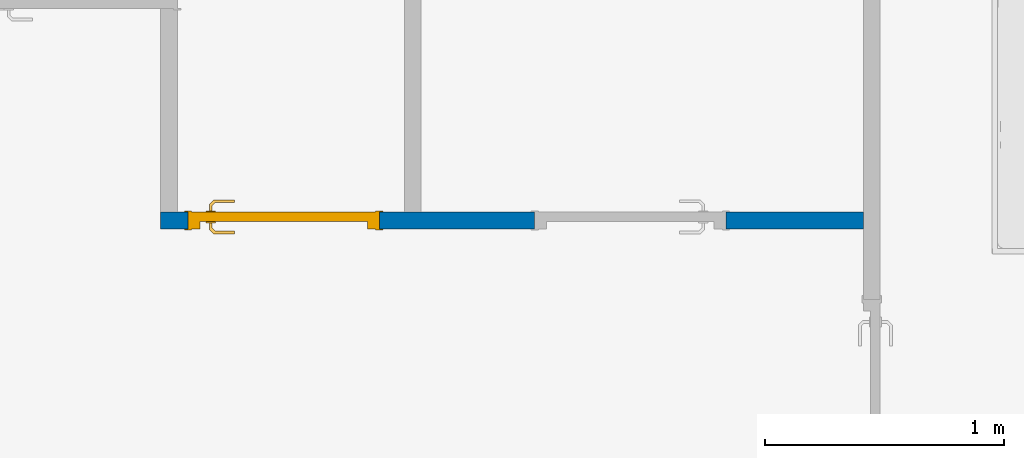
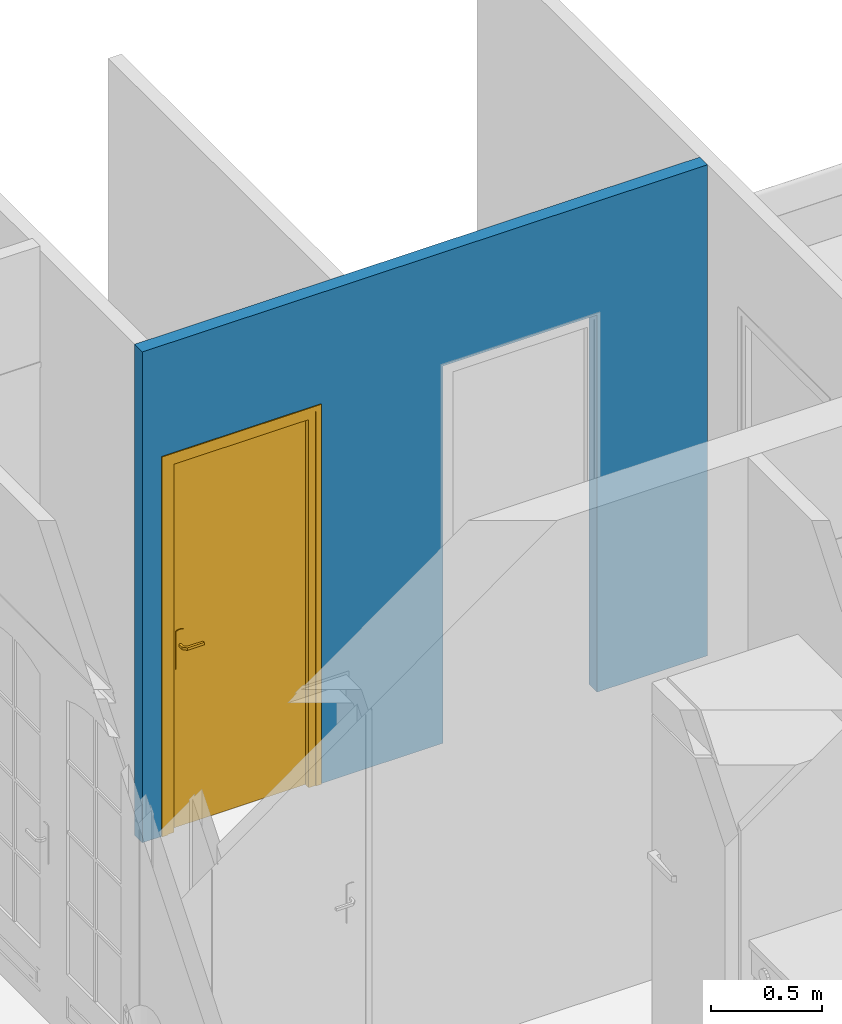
# One storey, part 3 of 15: 1 door, 1 wall, 2 openings.
"""IFC2X3 building model written with IfcOpenShell, lengths in metres."""

from ifc_helpers import new_model, entity, si_unit, converted_unit, derived_unit, direction, frame, frame_2d, origin, place, context, subcontext, project, spatial, polyline, rectangle, extrude, clip, bounded_halfspace, faceted_brep, source, transform, mapped, material, material_list, layer, layer_set, layer_usage, type_object, type_shapes, element, fill, save


model = new_model("IFC2X3")

# Units and contexts
model_context = context("Model", 3, precision=1e-05, world=origin(), true_north=direction((6.12303176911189e-17, 1.0)))
body_context = subcontext(model_context, "Body", "Model", "MODEL_VIEW")
ifc_project = project(units=[si_unit("LENGTHUNIT", "METRE"), si_unit("AREAUNIT", "SQUARE_METRE"), si_unit("VOLUMEUNIT", "CUBIC_METRE"), converted_unit("PLANEANGLEUNIT", "DEGREE", entity("IfcRatioMeasure", 0.0174532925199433), si_unit("PLANEANGLEUNIT", "RADIAN"), dimensions=[0, 0, 0, 0, 0, 0, 0]), si_unit("MASSUNIT", "GRAM", prefix="KILO"), derived_unit("MASSDENSITYUNIT", [(si_unit("MASSUNIT", "GRAM", prefix="KILO"), 1), (si_unit("LENGTHUNIT", "METRE"), -3)]), derived_unit("MOMENTOFINERTIAUNIT", [(si_unit("LENGTHUNIT", "METRE"), 4)]), si_unit("TIMEUNIT", "SECOND"), si_unit("FREQUENCYUNIT", "HERTZ"), si_unit("THERMODYNAMICTEMPERATUREUNIT", "DEGREE_CELSIUS"), derived_unit("THERMALTRANSMITTANCEUNIT", [(si_unit("MASSUNIT", "GRAM", prefix="KILO"), 1), (si_unit("THERMODYNAMICTEMPERATUREUNIT", "KELVIN"), -1), (si_unit("TIMEUNIT", "SECOND"), -3)]), derived_unit("VOLUMETRICFLOWRATEUNIT", [(si_unit("LENGTHUNIT", "METRE"), 3), (si_unit("TIMEUNIT", "SECOND"), -1)]), si_unit("ELECTRICCURRENTUNIT", "AMPERE"), si_unit("ELECTRICVOLTAGEUNIT", "VOLT"), si_unit("POWERUNIT", "WATT"), si_unit("FORCEUNIT", "NEWTON", prefix="KILO"), si_unit("ILLUMINANCEUNIT", "LUX"), si_unit("LUMINOUSFLUXUNIT", "LUMEN"), si_unit("LUMINOUSINTENSITYUNIT", "CANDELA"), derived_unit("USERDEFINED", [(si_unit("MASSUNIT", "GRAM", prefix="KILO"), -1), (si_unit("LENGTHUNIT", "METRE"), -2), (si_unit("TIMEUNIT", "SECOND"), 3), (si_unit("LUMINOUSFLUXUNIT", "LUMEN"), 1)]), derived_unit("LINEARVELOCITYUNIT", [(si_unit("LENGTHUNIT", "METRE"), 1), (si_unit("TIMEUNIT", "SECOND"), -1)]), si_unit("PRESSUREUNIT", "PASCAL"), derived_unit("USERDEFINED", [(si_unit("LENGTHUNIT", "METRE"), -2), (si_unit("MASSUNIT", "GRAM", prefix="KILO"), 1), (si_unit("TIMEUNIT", "SECOND"), -2)]), derived_unit("LINEARFORCEUNIT", [(si_unit("MASSUNIT", "GRAM", prefix="KILO"), 1), (si_unit("LENGTHUNIT", "METRE"), 1), (si_unit("TIMEUNIT", "SECOND"), -2), (si_unit("LENGTHUNIT", "METRE"), -1)]), derived_unit("PLANARFORCEUNIT", [(si_unit("MASSUNIT", "GRAM", prefix="KILO"), 1), (si_unit("LENGTHUNIT", "METRE"), 1), (si_unit("TIMEUNIT", "SECOND"), -2), (si_unit("LENGTHUNIT", "METRE"), -2)])], contexts=[model_context])

# Site, building, storey
site_placement = place(None, origin())
site = spatial("IfcSite", under=ifc_project, at=site_placement, Name="Surface", CompositionType="ELEMENT")
building_placement = place(site_placement, origin())
building = spatial("IfcBuilding", under=site, at=building_placement, CompositionType="ELEMENT")
storey_placement = place(building_placement, frame((0.0, 0.0, 2.65)))
storey = spatial("IfcBuildingStorey", under=building, at=storey_placement, Name="Niveau étage", CompositionType="ELEMENT", Elevation=2.65)

# Wall, openings, door
ifc_material_1 = material(Name="Mur par défaut")
ifc_layer = layer(ifc_material_1, 0.07)
ifc_layer_set = layer_set([ifc_layer], Name="Mur de base:Int. Plâtre 7cm")
ifc_layer_usage = layer_usage(ifc_layer_set, "AXIS2", "NEGATIVE", 0.035)
wall_type = type_object("IfcWallType", Name="Mur de base:Int. Plâtre 7cm", PredefinedType="STANDARD", material=ifc_layer_set)
wall_placement = place(storey_placement, frame((9.89939607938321, 4.96925810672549, 0.0), z_axis=(0.0, 0.0, 1.0), x_axis=(-1.0, 0.0, 0.0)))
wall = element("IfcWallStandardCase", 1, at=wall_placement, inside=storey, type_object=wall_type, material=ifc_layer_usage, Name="Mur de base:Int. Plâtre 7cm", ObjectType="Mur de base:Int. Plâtre 7cm", context=body_context, shape_type="Clipping", body=[
    clip(extrude(rectangle(XDim=2.94, YDim=0.0699999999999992, at=frame_2d((1.47, 1.90819582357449e-16), x_axis=(-1.0, 0.0))), origin(), (0.0, 0.0, 1.0), 2.7), bounded_halfspace(frame((0.0, -0.0350000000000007, 2.7), z_axis=(0.0, 0.0, -1.0), x_axis=(1.0, 0.0, 0.0)), True, frame((0.0, -0.0350000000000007, 2.7)), polyline([(0.0, 0.0), (1.85, 0.0), (1.92, 0.0), (2.87, 0.0), (2.94, 0.0), (2.94, 0.0700000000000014), (0.0, 0.0700000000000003), (0.0, 0.0)]))),
])
opening_1_placement = place(wall_placement, frame((2.825, 0.0350000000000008, 0.0)))
opening_1 = element("IfcOpeningElement", 2, at=opening_1_placement, cuts=wall, Name="Int. Simple:PP (0.73m x 2.04m):1", ObjectType="Opening", context=body_context, shape_type="SweptSolid", body=[
    extrude(rectangle(XDim=2.075, YDim=0.799999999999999, at=frame_2d((1.0375, 0.4), x_axis=(1.0, 0.0))), frame((0.0, 0.0, 0.0), z_axis=(0.0, -1.0, 0.0), x_axis=(0.0, 0.0, 1.0)), (0.0, 0.0, 1.0), 0.07),
])
opening_2_placement = place(wall_placement, frame((1.37499999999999, 0.0350000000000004, 0.0)))
element("IfcOpeningElement", 3, at=opening_2_placement, cuts=wall, Name="Int. Simple:PP (0.73m x 2.04m):1", ObjectType="Opening", context=body_context, shape_type="SweptSolid", body=[
    extrude(rectangle(XDim=2.075, YDim=0.799999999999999, at=frame_2d((1.0375, 0.4), x_axis=(1.0, 0.0))), frame((0.0, 0.0, 0.0), z_axis=(0.0, -1.0, 0.0), x_axis=(0.0, 0.0, 1.0)), (0.0, 0.0, 1.0), 0.07),
])
ifc_material_2 = material(Name="Finition Peinture - Blanc satiné")
ifc_material_3 = material(Name="Bois - Panneau de porte")
ifc_material_4 = material(Name="Bois - Cadre de porte")
ifc_material_list_1 = material_list([ifc_material_2, ifc_material_3, ifc_material_4])
ifc_material_list_2 = material_list([ifc_material_2, ifc_material_3, ifc_material_4])
door_style = type_object("IfcDoorStyle", Name="Int. Simple:PP (0.73m x 2.04m)", ConstructionType="NOTDEFINED", OperationType="NOTDEFINED", ParameterTakesPrecedence=False, Sizeable=False, material=ifc_material_list_2)
shared_shape = source(origin(), body_context, "Body", "Brep", [
    faceted_brep([(0.795000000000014, -0.00500000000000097, 0.870000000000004), (0.795000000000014, -0.00500000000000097, 1.08), (0.785352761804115, -0.00500000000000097, 1.08399601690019), (0.775000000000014, -0.00500000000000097, 1.08535898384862), (0.764647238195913, -0.00500000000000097, 1.08399601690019), (0.755000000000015, -0.00500000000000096, 1.08), (0.755000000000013, -0.00500000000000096, 0.870000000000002), (0.764647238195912, -0.00500000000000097, 0.866003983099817), (0.775000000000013, -0.00500000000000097, 0.86464101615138), (0.785352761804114, -0.00500000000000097, 0.866003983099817), (0.795000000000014, 0.0, 1.08), (0.795000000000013, 0.0, 0.870000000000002), (0.785352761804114, 0.0, 0.866003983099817), (0.775000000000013, 0.0, 0.86464101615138), (0.764647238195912, 0.0, 0.866003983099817), (0.755000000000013, 0.0, 0.870000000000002), (0.755000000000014, 0.0, 1.08), (0.764647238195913, 0.0, 1.08399601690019), (0.775000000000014, 0.0, 1.08535898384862), (0.785352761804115, 0.0, 1.08399601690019)], [[[0, 1, 2, 3, 4, 5, 6, 7, 8, 9]], [[10, 11, 12, 13, 14, 15, 16, 17, 18, 19]], [[9, 12, 11, 0]], [[8, 13, 12, 9]], [[7, 14, 13, 8]], [[7, 6, 15, 14]], [[15, 6, 5, 16]], [[4, 17, 16, 5]], [[3, 18, 17, 4]], [[2, 19, 18, 3]], [[2, 1, 10, 19]], [[11, 10, 1, 0]]]),
    faceted_brep([(0.795000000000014, 0.039999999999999, 0.870000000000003), (0.795000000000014, 0.039999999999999, 1.08), (0.785352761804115, 0.039999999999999, 1.08399601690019), (0.775000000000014, 0.039999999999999, 1.08535898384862), (0.764647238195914, 0.039999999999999, 1.08399601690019), (0.755000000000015, 0.039999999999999, 1.08), (0.755000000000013, 0.039999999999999, 0.870000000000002), (0.764647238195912, 0.039999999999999, 0.866003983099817), (0.775000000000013, 0.039999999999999, 0.86464101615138), (0.785352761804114, 0.039999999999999, 0.866003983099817), (0.775000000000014, 0.044999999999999, 1.08535898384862), (0.785352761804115, 0.044999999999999, 1.08399601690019), (0.795000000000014, 0.044999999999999, 1.08), (0.795000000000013, 0.044999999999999, 0.870000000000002), (0.785352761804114, 0.044999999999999, 0.866003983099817), (0.775000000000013, 0.044999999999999, 0.86464101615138), (0.764647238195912, 0.044999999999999, 0.866003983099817), (0.755000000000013, 0.044999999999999, 0.870000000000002), (0.755000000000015, 0.044999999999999, 1.08), (0.764647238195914, 0.044999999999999, 1.08399601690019)], [[[0, 1, 2, 3, 4, 5, 6, 7, 8, 9]], [[10, 11, 12, 13, 14, 15, 16, 17, 18, 19]], [[4, 19, 18, 5]], [[3, 10, 19, 4]], [[2, 11, 10, 3]], [[2, 1, 12, 11]], [[13, 12, 1, 0]], [[9, 14, 13, 0]], [[8, 15, 14, 9]], [[7, 16, 15, 8]], [[7, 6, 17, 16]], [[17, 6, 5, 18]]]),
    faceted_brep([(0.772974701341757, -0.00500000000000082, 1.00778044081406), (0.777025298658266, -0.00500000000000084, 1.00778044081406), (0.781000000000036, -0.00500000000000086, 1.00699999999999), (0.781000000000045, -0.00500000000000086, 0.992999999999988), (0.777025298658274, -0.00500000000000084, 0.99221955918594), (0.772974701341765, -0.00500000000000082, 0.992219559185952), (0.768999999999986, -0.00500000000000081, 0.993000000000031), (0.768999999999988, -0.00500000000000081, 1.007), (0.777025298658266, -0.0310045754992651, 1.00778044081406), (0.781000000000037, -0.0326509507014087, 1.007), (0.772974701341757, -0.0293267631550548, 1.00778044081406), (0.759298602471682, -0.0430028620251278, 1.00778044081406), (0.760976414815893, -0.047053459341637, 1.00778044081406), (0.768999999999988, -0.0276803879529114, 1.007), (0.768999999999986, -0.0276803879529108, 0.993000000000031), (0.772974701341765, -0.0293267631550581, 0.992219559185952), (0.777025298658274, -0.0310045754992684, 0.99221955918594), (0.760976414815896, -0.0470534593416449, 0.99221955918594), (0.759298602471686, -0.0430028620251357, 0.992219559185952), (0.781000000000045, -0.0326509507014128, 0.992999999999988), (0.762622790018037, -0.051028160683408, 1.007), (0.757652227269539, -0.0390281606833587, 1.007), (0.757652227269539, -0.0390281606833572, 0.993000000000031), (0.76262279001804, -0.0510281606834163, 0.992999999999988), (0.674981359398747, -0.0510281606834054, 1.007), (0.674981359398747, -0.0470534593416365, 1.00778044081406), (0.674981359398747, -0.0430028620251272, 1.00778044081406), (0.674981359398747, -0.0390281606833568, 1.00699999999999), (0.674981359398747, -0.0390281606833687, 0.993000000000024), (0.674981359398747, -0.0430028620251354, 0.992219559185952), (0.674981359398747, -0.0470534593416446, 0.99221955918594), (0.674981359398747, -0.0510281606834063, 0.992999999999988), (0.71713998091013, -0.0450281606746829, 1.0078786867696), (0.722692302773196, -0.0510281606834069, 1.007), (0.716316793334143, -0.0390281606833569, 1.007), (0.716316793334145, -0.0390281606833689, 0.993000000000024), (0.717139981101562, -0.0450281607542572, 0.992121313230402), (0.722692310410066, -0.0510281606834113, 0.992999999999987)], [[[0, 1, 2, 3, 4, 5, 6, 7]], [[2, 1, 8, 9]], [[1, 0, 10, 11, 12, 8]], [[0, 7, 13, 10]], [[14, 13, 7, 6]], [[5, 15, 14, 6]], [[5, 4, 16, 17, 18, 15]], [[3, 19, 16, 4]], [[9, 19, 3, 2]], [[9, 8, 12, 20]], [[10, 13, 21, 11]], [[22, 21, 13, 14]], [[14, 15, 18, 22]], [[16, 19, 23, 17]], [[20, 23, 19, 9]], [[24, 25, 26, 27, 28, 29, 30, 31]], [[32, 25, 33]], [[33, 25, 24]], [[33, 20, 12]], [[11, 34, 32]], [[34, 11, 21]], [[27, 26, 34]], [[32, 26, 25]], [[32, 34, 26]], [[32, 33, 12]], [[11, 32, 12]], [[21, 22, 35, 28, 27, 34]], [[36, 29, 35]], [[30, 36, 37]], [[18, 35, 22]], [[29, 28, 35]], [[30, 37, 31]], [[37, 17, 23]], [[36, 17, 37]], [[36, 18, 17]], [[36, 35, 18]], [[29, 36, 30]], [[23, 20, 33, 24, 31, 37]]]),
    faceted_brep([(0.772974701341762, 0.0449999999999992, 0.992219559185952), (0.777025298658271, 0.0449999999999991, 0.99221955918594), (0.781000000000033, 0.0449999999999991, 0.992999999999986), (0.781000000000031, 0.0449999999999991, 1.007), (0.777025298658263, 0.0449999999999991, 1.00778044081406), (0.772974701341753, 0.0449999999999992, 1.00778044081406), (0.768999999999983, 0.0449999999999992, 1.007), (0.768999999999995, 0.0449999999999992, 0.993000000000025), (0.768999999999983, 0.0674852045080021, 1.007), (0.768999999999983, 0.0674852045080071, 0.993000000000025), (0.772974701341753, 0.0691315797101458, 1.00778044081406), (0.777025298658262, 0.0708093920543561, 1.00778044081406), (0.760838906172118, 0.0869957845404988, 1.00778044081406), (0.759161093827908, 0.0829451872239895, 1.00778044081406), (0.781000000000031, 0.0724557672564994, 1.007), (0.781000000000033, 0.0724557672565, 0.992999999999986), (0.777025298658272, 0.0708093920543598, 0.99221955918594), (0.772974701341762, 0.0691315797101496, 0.992219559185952), (0.759161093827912, 0.0829451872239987, 0.992219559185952), (0.760838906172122, 0.0869957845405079, 0.99221955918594), (0.757514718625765, 0.0789704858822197, 1.007), (0.757514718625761, 0.0789704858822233, 0.993000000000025), (0.762485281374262, 0.0909704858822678, 1.007), (0.762485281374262, 0.0909704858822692, 0.992999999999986), (0.674954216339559, 0.0829451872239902, 1.00778044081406), (0.674954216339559, 0.0869957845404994, 1.00778044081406), (0.674954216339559, 0.0909704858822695, 1.007), (0.674954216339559, 0.0909704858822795, 0.992999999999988), (0.674954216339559, 0.0869957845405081, 0.99221955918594), (0.674954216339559, 0.0829451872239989, 0.992219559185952), (0.674954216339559, 0.07897048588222, 0.993000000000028), (0.674954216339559, 0.0789704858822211, 1.007), (0.716234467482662, 0.0789704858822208, 1.007), (0.716234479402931, 0.0789704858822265, 0.993000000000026), (0.717057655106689, 0.0849704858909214, 1.0078786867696), (0.722554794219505, 0.0909704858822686, 1.007), (0.722554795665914, 0.0909704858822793, 0.992999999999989), (0.717057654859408, 0.0849704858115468, 0.992121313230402)], [[[0, 1, 2, 3, 4, 5, 6, 7]], [[8, 9, 7, 6]], [[5, 10, 8, 6]], [[5, 4, 11, 12, 13, 10]], [[3, 14, 11, 4]], [[14, 3, 2, 15]], [[2, 1, 16, 15]], [[1, 0, 17, 18, 19, 16]], [[0, 7, 9, 17]], [[20, 21, 9, 8]], [[8, 10, 13, 20]], [[14, 22, 12, 11]], [[23, 22, 14, 15]], [[15, 16, 19, 23]], [[17, 9, 21, 18]], [[24, 25, 26, 27, 28, 29, 30, 31]], [[21, 20, 32, 31, 30, 33]], [[34, 24, 32]], [[25, 34, 35]], [[13, 32, 20]], [[24, 31, 32]], [[25, 35, 26]], [[35, 12, 22]], [[34, 12, 35]], [[34, 13, 12]], [[34, 32, 13]], [[24, 34, 25]], [[22, 23, 36, 27, 26, 35]], [[37, 28, 36]], [[36, 28, 27]], [[36, 23, 19]], [[18, 33, 37]], [[33, 18, 21]], [[30, 29, 33]], [[37, 29, 28]], [[37, 33, 29]], [[37, 36, 19]], [[18, 37, 19]]]),
    faceted_brep([(0.835000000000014, 0.0400000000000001, 2.04), (0.835000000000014, 0.0400000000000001, 0.0), (0.105000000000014, 0.0400000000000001, 0.0), (0.105000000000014, 0.0400000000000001, 2.04), (0.835000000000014, 0.0, 2.04), (0.105000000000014, 0.0, 2.04), (0.105000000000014, 0.0, 0.0), (0.835000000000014, 0.0, 0.0)], [[[0, 1, 2, 3]], [[4, 5, 6, 7]], [[3, 5, 4, 0]], [[2, 6, 5, 3]], [[1, 7, 6, 2]], [[0, 4, 7, 1]]]),
    faceted_brep([(0.870000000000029, 0.0, 0.0), (0.835000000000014, 0.0, 0.0), (0.835000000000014, 0.04, 0.0), (0.820000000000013, 0.04, 0.0), (0.820000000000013, 0.0699999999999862, 0.0), (0.870000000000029, 0.0699999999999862, 0.0), (0.870000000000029, 0.0699999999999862, 2.07500000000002), (0.870000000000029, 0.0, 2.07500000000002), (0.820000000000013, 0.0699999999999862, 2.025), (0.120000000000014, 0.0699999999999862, 2.025), (0.120000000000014, 0.0699999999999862, 0.0), (0.0699999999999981, 0.0699999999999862, 0.0), (0.0699999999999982, 0.0699999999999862, 2.07500000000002), (0.820000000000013, 0.04, 2.025), (0.835000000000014, 0.04, 2.04), (0.105000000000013, 0.04, 2.04), (0.105000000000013, 0.04, 0.0), (0.120000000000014, 0.04, 0.0), (0.120000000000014, 0.04, 2.025), (0.835000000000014, 0.0, 2.04), (0.0699999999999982, 0.0, 2.07500000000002), (0.0699999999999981, 0.0, 0.0), (0.105000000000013, 0.0, 0.0), (0.105000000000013, 0.0, 2.04)], [[[0, 1, 2, 3, 4, 5]], [[5, 6, 7, 0]], [[4, 8, 9, 10, 11, 12, 6, 5]], [[3, 13, 8, 4]], [[2, 14, 15, 16, 17, 18, 13, 3]], [[1, 19, 14, 2]], [[0, 7, 20, 21, 22, 23, 19, 1]], [[12, 11, 21, 20]], [[21, 11, 10, 17, 16, 22]], [[18, 17, 10, 9]], [[23, 22, 16, 15]], [[6, 12, 20, 7]], [[13, 18, 9, 8]], [[19, 23, 15, 14]]]),
    faceted_brep([(0.855000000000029, 0.0699999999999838, 0.0), (0.855000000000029, 0.0749999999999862, 0.0), (0.885000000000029, 0.0749999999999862, 0.0), (0.885000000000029, 0.0699999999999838, 0.0), (0.885000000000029, 0.0699999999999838, 2.09000000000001), (0.0550000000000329, 0.0699999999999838, 2.09000000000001), (0.055000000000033, 0.0699999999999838, 0.0), (0.0850000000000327, 0.0699999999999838, 0.0), (0.0850000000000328, 0.0699999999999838, 2.06000000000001), (0.855000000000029, 0.0699999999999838, 2.06000000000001), (0.885000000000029, 0.0749999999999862, 2.09000000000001), (0.855000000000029, 0.0749999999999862, 2.06000000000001), (0.0850000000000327, 0.0749999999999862, 2.06000000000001), (0.0850000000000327, 0.0749999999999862, 0.0), (0.055000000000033, 0.0749999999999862, 0.0), (0.0550000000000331, 0.0749999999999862, 2.09000000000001)], [[[0, 1, 2, 3]], [[3, 4, 5, 6, 7, 8, 9, 0]], [[2, 10, 4, 3]], [[1, 11, 12, 13, 14, 15, 10, 2]], [[0, 9, 11, 1]], [[7, 6, 14, 13]], [[8, 7, 13, 12]], [[15, 14, 6, 5]], [[10, 15, 5, 4]], [[9, 8, 12, 11]]]),
    faceted_brep([(0.885000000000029, -0.00499999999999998, 0.0), (0.885000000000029, -0.00499999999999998, 2.09000000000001), (0.0550000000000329, -0.00499999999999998, 2.09000000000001), (0.055000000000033, -0.00499999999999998, 0.0), (0.0850000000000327, -0.00499999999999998, 0.0), (0.0850000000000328, -0.00499999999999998, 2.06000000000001), (0.855000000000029, -0.00499999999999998, 2.06000000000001), (0.855000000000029, -0.00499999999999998, 0.0), (0.885000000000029, 0.0, 0.0), (0.885000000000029, 0.0, 2.09000000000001), (0.855000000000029, 0.0, 0.0), (0.855000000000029, 0.0, 2.06000000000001), (0.0850000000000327, 0.0, 2.06000000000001), (0.0850000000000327, 0.0, 0.0), (0.055000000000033, 0.0, 0.0), (0.0550000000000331, 0.0, 2.09000000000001)], [[[0, 1, 2, 3, 4, 5, 6, 7]], [[8, 9, 1, 0]], [[10, 11, 12, 13, 14, 15, 9, 8]], [[7, 6, 11, 10]], [[5, 4, 13, 12]], [[15, 14, 3, 2]], [[9, 15, 2, 1]], [[6, 5, 12, 11]], [[4, 3, 14, 13]], [[7, 10, 8, 0]]]),
])
type_shapes(door_style, [shared_shape])
door_placement = place(opening_1_placement, frame((-0.870000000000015, -0.0699999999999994, 0.0)))
door = element("IfcDoor", 4, at=door_placement, inside=storey, type_object=door_style, material=ifc_material_list_1, Name="Int. Simple:PP (0.73m x 2.04m)", ObjectType="Int. Simple:PP (0.73m x 2.04m)", OverallHeight=2.075, OverallWidth=0.8, context=body_context, shape_type="MappedRepresentation", body=[
    mapped(shared_shape, transform((0.0, 0.0, 0.0), scale=1.0)),
])
fill(opening_1, door)

save(model, "model.ifc")
